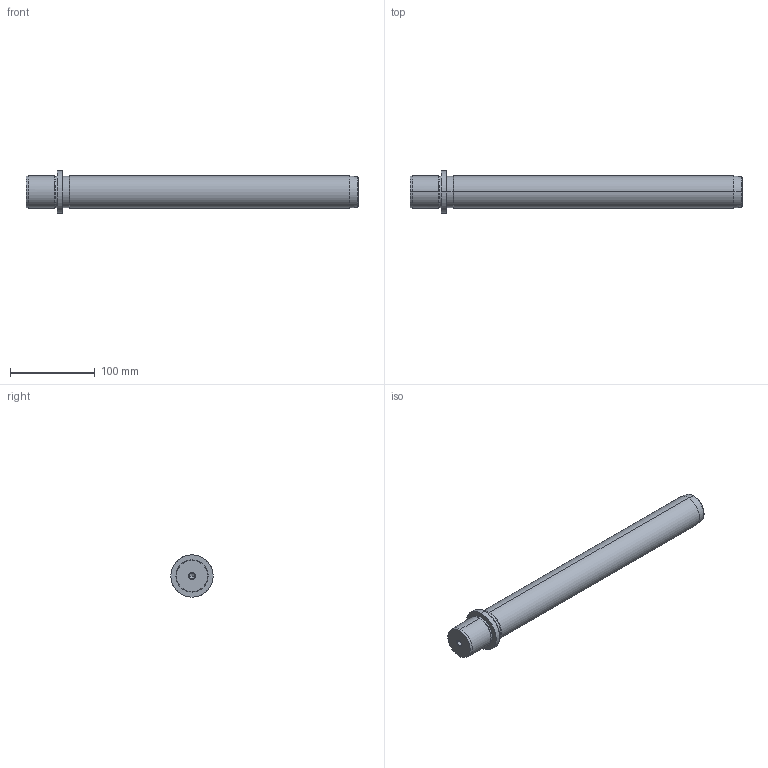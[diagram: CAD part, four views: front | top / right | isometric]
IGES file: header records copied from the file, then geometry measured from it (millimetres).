
Start section: START RECORD GO HERE.
Global section: file name: 718-38x355.igs; native system: DASSAULT SYSTEMES CATIA V5 R20 - www.3ds.com; preprocessor: CATIA Version 5 Release 20 ; author: Utente; organization: NB04-ASUS; date: 20210102.135025; units: millimetre
Bounding box: 392 x 50 x 50 mm (x, y, z)
Surface area: 51804.9 mm2 (no closed solid volume)
Topology: 0 solids, 0 shells, 36 faces, 196 edges, 192 vertices
Faces by surface type: revolution 32, plane 4
